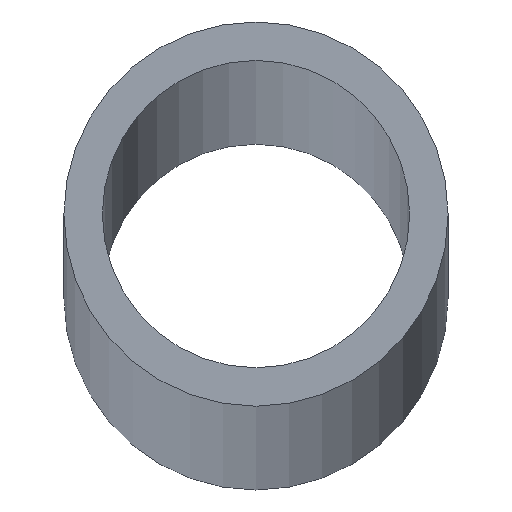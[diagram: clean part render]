
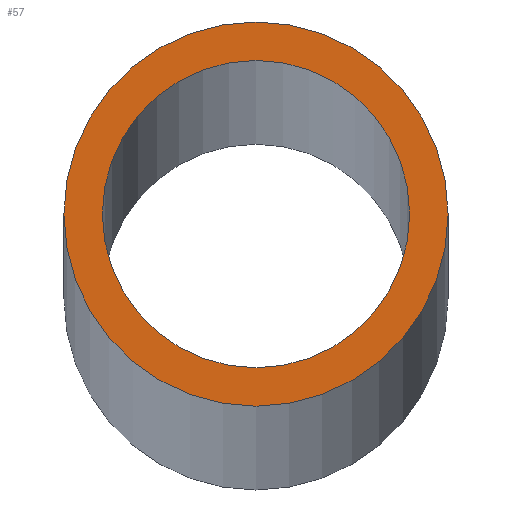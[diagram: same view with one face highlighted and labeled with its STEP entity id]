
A CAD part, top view. The second image highlights one B-rep face of the part: STEP entity #57.
In plain terms, the highlighted planar face has unit normal (0, 0, 1).
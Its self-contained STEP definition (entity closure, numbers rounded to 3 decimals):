
#1 = CARTESIAN_POINT ( 'NONE',  ( 0., 0., 1000. ) ) ;
#4 = CARTESIAN_POINT ( 'NONE',  ( 0., 0., 1000. ) ) ;
#7 = CARTESIAN_POINT ( 'NONE',  ( 0., 0., 1000. ) ) ;
#10 = CIRCLE ( 'NONE', #31, 3.2 ) ;
#16 = CARTESIAN_POINT ( 'NONE',  ( 3.2, 0., 1000. ) ) ;
#23 = DIRECTION ( 'NONE',  ( 1., 0., 0. ) ) ;
#27 = DIRECTION ( 'NONE',  ( 0., 0., 1. ) ) ;
#31 = AXIS2_PLACEMENT_3D ( 'NONE', #7, #188, #202 ) ;
#34 = CARTESIAN_POINT ( 'NONE',  ( 0., 0., 1000. ) ) ;
#43 = FACE_BOUND ( 'NONE', #201, .T. ) ;
#44 = FACE_OUTER_BOUND ( 'NONE', #68, .T. ) ;
#46 = VERTEX_POINT ( 'NONE', #165 ) ;
#57 = ADVANCED_FACE ( 'NONE', ( #44, #43 ), #107, .T. ) ;
#66 = DIRECTION ( 'NONE',  ( 1., 0., 0. ) ) ;
#67 = CIRCLE ( 'NONE', #211, 4. ) ;
#68 = EDGE_LOOP ( 'NONE', ( #199, #179 ) ) ;
#77 = EDGE_CURVE ( 'NONE', #117, #101, #133, .T. ) ;
#78 = CIRCLE ( 'NONE', #140, 3.2 ) ;
#86 = VERTEX_POINT ( 'NONE', #16 ) ;
#91 = EDGE_CURVE ( 'NONE', #86, #46, #78, .T. ) ;
#101 = VERTEX_POINT ( 'NONE', #174 ) ;
#107 = PLANE ( 'NONE',  #214 ) ;
#108 = DIRECTION ( 'NONE',  ( 0., 0., 1. ) ) ;
#117 = VERTEX_POINT ( 'NONE', #145 ) ;
#123 = DIRECTION ( 'NONE',  ( 1., 0., 0. ) ) ;
#124 = ORIENTED_EDGE ( 'NONE', *, *, #184, .F. ) ;
#125 = AXIS2_PLACEMENT_3D ( 'NONE', #34, #108, #123 ) ;
#127 = CARTESIAN_POINT ( 'NONE',  ( 0., 0., 1000. ) ) ;
#133 = CIRCLE ( 'NONE', #125, 4. ) ;
#140 = AXIS2_PLACEMENT_3D ( 'NONE', #127, #171, #207 ) ;
#145 = CARTESIAN_POINT ( 'NONE',  ( -4., 0., 1000. ) ) ;
#165 = CARTESIAN_POINT ( 'NONE',  ( -3.2, 0., 1000. ) ) ;
#171 = DIRECTION ( 'NONE',  ( 0., 0., 1. ) ) ;
#174 = CARTESIAN_POINT ( 'NONE',  ( 4., 0., 1000. ) ) ;
#178 = EDGE_CURVE ( 'NONE', #101, #117, #67, .T. ) ;
#179 = ORIENTED_EDGE ( 'NONE', *, *, #178, .T. ) ;
#184 = EDGE_CURVE ( 'NONE', #46, #86, #10, .T. ) ;
#185 = DIRECTION ( 'NONE',  ( 0., 0., 1. ) ) ;
#188 = DIRECTION ( 'NONE',  ( 0., 0., 1. ) ) ;
#194 = ORIENTED_EDGE ( 'NONE', *, *, #91, .F. ) ;
#199 = ORIENTED_EDGE ( 'NONE', *, *, #77, .T. ) ;
#201 = EDGE_LOOP ( 'NONE', ( #124, #194 ) ) ;
#202 = DIRECTION ( 'NONE',  ( 1., 0., 0. ) ) ;
#207 = DIRECTION ( 'NONE',  ( 1., 0., 0. ) ) ;
#211 = AXIS2_PLACEMENT_3D ( 'NONE', #4, #27, #23 ) ;
#214 = AXIS2_PLACEMENT_3D ( 'NONE', #1, #185, #66 ) ;
